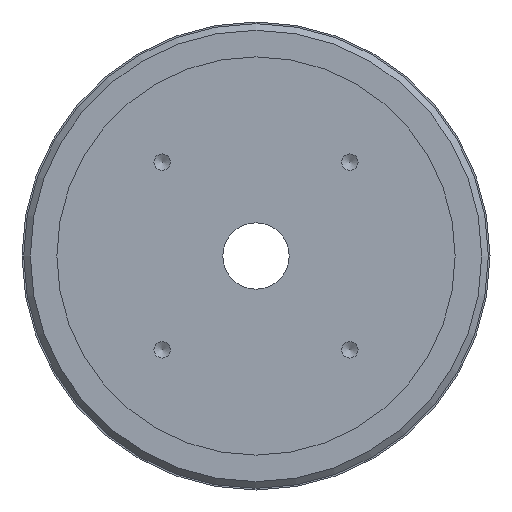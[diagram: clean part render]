
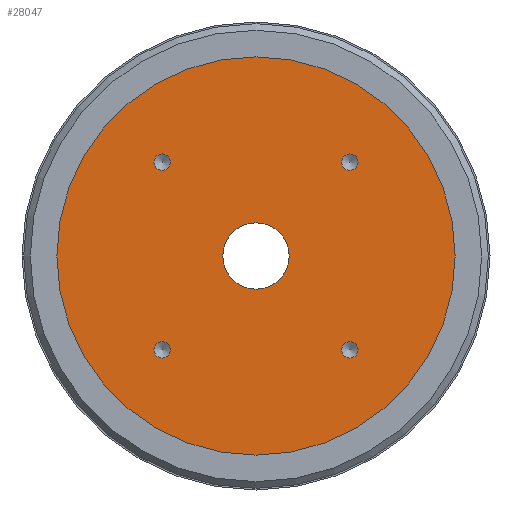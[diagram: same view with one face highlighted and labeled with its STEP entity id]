
A CAD part, left-side view. The second image highlights one B-rep face of the part: STEP entity #28047.
In plain terms, the highlighted planar face has unit normal (-1, 0, 0).
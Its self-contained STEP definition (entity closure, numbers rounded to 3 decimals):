
#1893=FACE_BOUND('',#5762,.T.);
#1894=FACE_BOUND('',#5763,.T.);
#1895=FACE_BOUND('',#5764,.T.);
#1896=FACE_BOUND('',#5765,.T.);
#1897=FACE_BOUND('',#5766,.T.);
#2358=CIRCLE('',#30264,60.);
#2359=CIRCLE('',#30265,60.);
#2695=CIRCLE('',#32148,10.);
#2696=CIRCLE('',#32149,10.);
#2697=CIRCLE('',#32150,2.459);
#2698=CIRCLE('',#32151,2.459);
#2699=CIRCLE('',#32152,2.459);
#2700=CIRCLE('',#32153,2.459);
#2701=CIRCLE('',#32154,2.459);
#2702=CIRCLE('',#32155,2.459);
#2703=CIRCLE('',#32156,2.459);
#2704=CIRCLE('',#32157,2.459);
#4248=FACE_OUTER_BOUND('',#5761,.T.);
#5761=EDGE_LOOP('',(#24990,#24991));
#5762=EDGE_LOOP('',(#24992,#24993));
#5763=EDGE_LOOP('',(#24994,#24995));
#5764=EDGE_LOOP('',(#24996,#24997));
#5765=EDGE_LOOP('',(#24998,#24999));
#5766=EDGE_LOOP('',(#25000,#25001));
#10714=VERTEX_POINT('',#46759);
#10715=VERTEX_POINT('',#46760);
#12061=VERTEX_POINT('',#50991);
#12062=VERTEX_POINT('',#50992);
#12063=VERTEX_POINT('',#50995);
#12064=VERTEX_POINT('',#50996);
#12065=VERTEX_POINT('',#50999);
#12066=VERTEX_POINT('',#51000);
#12067=VERTEX_POINT('',#51003);
#12068=VERTEX_POINT('',#51004);
#12069=VERTEX_POINT('',#51007);
#12070=VERTEX_POINT('',#51008);
#14386=EDGE_CURVE('',#10714,#10715,#2358,.T.);
#14387=EDGE_CURVE('',#10715,#10714,#2359,.T.);
#16395=EDGE_CURVE('',#12061,#12062,#2695,.T.);
#16396=EDGE_CURVE('',#12062,#12061,#2696,.T.);
#16397=EDGE_CURVE('',#12063,#12064,#2697,.T.);
#16398=EDGE_CURVE('',#12064,#12063,#2698,.T.);
#16399=EDGE_CURVE('',#12065,#12066,#2699,.T.);
#16400=EDGE_CURVE('',#12066,#12065,#2700,.T.);
#16401=EDGE_CURVE('',#12067,#12068,#2701,.T.);
#16402=EDGE_CURVE('',#12068,#12067,#2702,.T.);
#16403=EDGE_CURVE('',#12069,#12070,#2703,.T.);
#16404=EDGE_CURVE('',#12070,#12069,#2704,.T.);
#24990=ORIENTED_EDGE('',*,*,#14387,.F.);
#24991=ORIENTED_EDGE('',*,*,#14386,.F.);
#24992=ORIENTED_EDGE('',*,*,#16395,.T.);
#24993=ORIENTED_EDGE('',*,*,#16396,.T.);
#24994=ORIENTED_EDGE('',*,*,#16397,.T.);
#24995=ORIENTED_EDGE('',*,*,#16398,.T.);
#24996=ORIENTED_EDGE('',*,*,#16399,.T.);
#24997=ORIENTED_EDGE('',*,*,#16400,.T.);
#24998=ORIENTED_EDGE('',*,*,#16401,.T.);
#24999=ORIENTED_EDGE('',*,*,#16402,.T.);
#25000=ORIENTED_EDGE('',*,*,#16403,.T.);
#25001=ORIENTED_EDGE('',*,*,#16404,.T.);
#26586=PLANE('',#32147);
#28047=ADVANCED_FACE('',(#4248,#1893,#1894,#1895,#1896,#1897),#26586,.T.);
#30264=AXIS2_PLACEMENT_3D('',#46761,#37409,#37410);
#30265=AXIS2_PLACEMENT_3D('',#46762,#37411,#37412);
#32147=AXIS2_PLACEMENT_3D('',#50990,#41936,#41937);
#32148=AXIS2_PLACEMENT_3D('',#50993,#41938,#41939);
#32149=AXIS2_PLACEMENT_3D('',#50994,#41940,#41941);
#32150=AXIS2_PLACEMENT_3D('',#50997,#41942,#41943);
#32151=AXIS2_PLACEMENT_3D('',#50998,#41944,#41945);
#32152=AXIS2_PLACEMENT_3D('',#51001,#41946,#41947);
#32153=AXIS2_PLACEMENT_3D('',#51002,#41948,#41949);
#32154=AXIS2_PLACEMENT_3D('',#51005,#41950,#41951);
#32155=AXIS2_PLACEMENT_3D('',#51006,#41952,#41953);
#32156=AXIS2_PLACEMENT_3D('',#51009,#41954,#41955);
#32157=AXIS2_PLACEMENT_3D('',#51010,#41956,#41957);
#37409=DIRECTION('center_axis',(1.,0.,0.));
#37410=DIRECTION('ref_axis',(0.,-1.,0.));
#37411=DIRECTION('center_axis',(1.,0.,0.));
#37412=DIRECTION('ref_axis',(0.,-1.,0.));
#41936=DIRECTION('center_axis',(-1.,0.,0.));
#41937=DIRECTION('ref_axis',(0.,0.,1.));
#41938=DIRECTION('center_axis',(1.,0.,0.));
#41939=DIRECTION('ref_axis',(0.,1.,0.));
#41940=DIRECTION('center_axis',(1.,0.,0.));
#41941=DIRECTION('ref_axis',(0.,1.,0.));
#41942=DIRECTION('center_axis',(1.,0.,0.));
#41943=DIRECTION('ref_axis',(0.,0.,1.));
#41944=DIRECTION('center_axis',(1.,0.,0.));
#41945=DIRECTION('ref_axis',(0.,0.,1.));
#41946=DIRECTION('center_axis',(1.,0.,0.));
#41947=DIRECTION('ref_axis',(0.,0.,1.));
#41948=DIRECTION('center_axis',(1.,0.,0.));
#41949=DIRECTION('ref_axis',(0.,0.,1.));
#41950=DIRECTION('center_axis',(1.,0.,0.));
#41951=DIRECTION('ref_axis',(0.,0.,1.));
#41952=DIRECTION('center_axis',(1.,0.,0.));
#41953=DIRECTION('ref_axis',(0.,0.,1.));
#41954=DIRECTION('center_axis',(1.,0.,0.));
#41955=DIRECTION('ref_axis',(0.,0.,1.));
#41956=DIRECTION('center_axis',(1.,0.,0.));
#41957=DIRECTION('ref_axis',(0.,0.,1.));
#46759=CARTESIAN_POINT('',(-30.,-60.,0.));
#46760=CARTESIAN_POINT('',(-30.,60.,0.));
#46761=CARTESIAN_POINT('Origin',(-30.,0.,0.));
#46762=CARTESIAN_POINT('Origin',(-30.,0.,0.));
#50990=CARTESIAN_POINT('Origin',(-30.,35.75,0.));
#50991=CARTESIAN_POINT('',(-30.,10.,0.));
#50992=CARTESIAN_POINT('',(-30.,-10.,0.));
#50993=CARTESIAN_POINT('Origin',(-30.,0.,0.));
#50994=CARTESIAN_POINT('Origin',(-30.,0.,0.));
#50995=CARTESIAN_POINT('',(-30.,28.284,-25.826));
#50996=CARTESIAN_POINT('',(-30.,28.284,-30.743));
#50997=CARTESIAN_POINT('Origin',(-30.,28.284,-28.284));
#50998=CARTESIAN_POINT('Origin',(-30.,28.284,-28.284));
#50999=CARTESIAN_POINT('',(-30.,28.284,30.743));
#51000=CARTESIAN_POINT('',(-30.,28.284,25.826));
#51001=CARTESIAN_POINT('Origin',(-30.,28.284,28.284));
#51002=CARTESIAN_POINT('Origin',(-30.,28.284,28.284));
#51003=CARTESIAN_POINT('',(-30.,-28.284,30.743));
#51004=CARTESIAN_POINT('',(-30.,-28.284,25.826));
#51005=CARTESIAN_POINT('Origin',(-30.,-28.284,28.284));
#51006=CARTESIAN_POINT('Origin',(-30.,-28.284,28.284));
#51007=CARTESIAN_POINT('',(-30.,-28.284,-25.826));
#51008=CARTESIAN_POINT('',(-30.,-28.284,-30.743));
#51009=CARTESIAN_POINT('Origin',(-30.,-28.284,-28.284));
#51010=CARTESIAN_POINT('Origin',(-30.,-28.284,-28.284));
